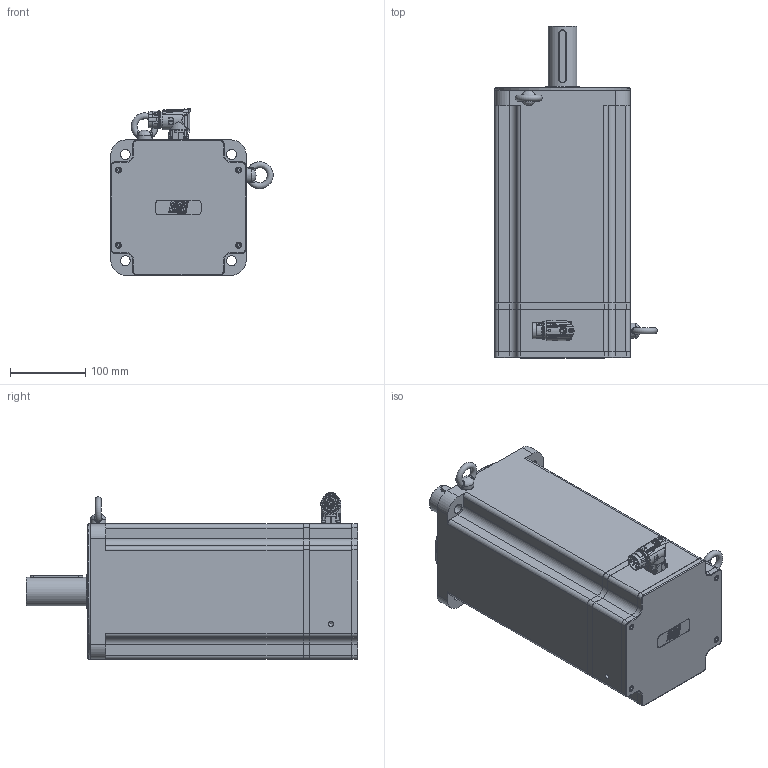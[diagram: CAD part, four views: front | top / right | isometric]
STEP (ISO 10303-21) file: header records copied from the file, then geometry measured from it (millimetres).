
FILE_DESCRIPTION(/* description */ ('Unknown'),/* implementation_level */ '2;1');
FILE_NAME(/* name */ 'TC4-180.7F.X X.X.3.XX.0.X.C21 Q0B807',/* time_stamp */ '2026-03-10T12:04:31+01:00',/* author */ ('Unknown'),/* organization */ ('Unknown'),/* preprocessor_version */ 'ST-DEVELOPER v19.4',/* originating_system */ 'Solid Edge',/* authorisation */ 'Unknown');
FILE_SCHEMA (('AUTOMOTIVE_DESIGN {1 0 10303 214 3 1 1}'));
Products named in the file (14): Q0B807 7F VUOTO; Calotta TC4-180 V8; 003251040631; 005911000479; 003155002233; 005113001040; 003120003175; 005119001064; 005911000185; Coperchio campana TC4-180; 003003199968; 005911000180; 005321000010; 007117000456
Assembly tree (27 placements, depth 2):
  Q0B807 7F VUOTO
    Calotta TC4-180 V8
    003251040631
    005911000479  x8
    003155002233
    005113001040
    003120003175
    005119001064
    005911000185  x4
    Coperchio campana TC4-180
    003003199968
    005911000180  x4
    005321000010  x2
    007117000456
Bounding box: 216 x 441.5 x 221.5 mm (x, y, z)
Volume: 4289410.8 mm3; surface area: 823047.9 mm2
Topology: 29 solids, 29 shells, 1742 faces, 4361 edges, 2785 vertices
Faces by surface type: plane 769, cylinder 384, bspline 227, cone 197, torus 129, sphere 36
Full cylindrical faces by diameter (mm): 1 x4, 1.4 x4, 2 x4, 2.013 x8, 2.5 x4, 2.8 x4, 3 x8, 3.242 x8, 4 x5, 4.134 x24, 4.2 x8, 4.5 x9, 4.7 x4, 5 x8, 5.5 x9, 5.8 x1, 5.9 x1, 6.647 x14, 6.8 x1, 7 x6, 8 x6, 9 x4, 10 x5, 10.106 x2, 15 x1, 17.4 x1, 19.9 x1, 20 x3, 21.15 x2, 21.6 x1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
Entity records: 59903 total; most frequent: CARTESIAN_POINT 15597, ORIENTED_EDGE 6960, DIRECTION 6639, EDGE_CURVE 3480, AXIS2_PLACEMENT_3D 2519, VERTEX_POINT 2408, FACE_BOUND 2040, EDGE_LOOP 2014
